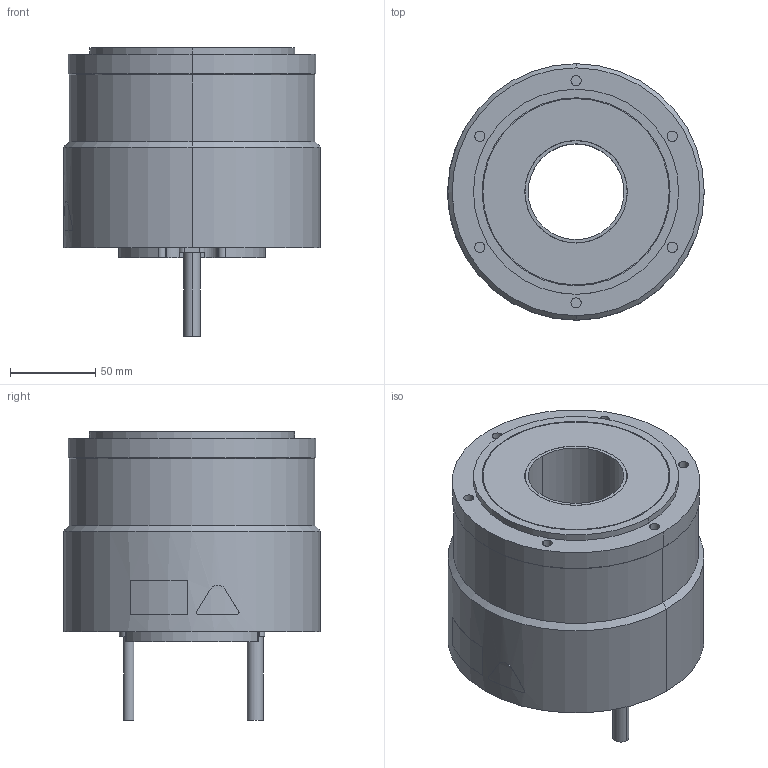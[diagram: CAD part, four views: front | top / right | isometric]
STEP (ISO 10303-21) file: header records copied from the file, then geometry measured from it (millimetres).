
FILE_DESCRIPTION (( 'STEP AP203' ), '1' );
FILE_NAME ('sgm7d_09j_c5_.STEP', '2016-02-23T01:33:54', ( '' ), ( '' ), 'SwSTEP 2.0', 'SolidWorks 2010', '' );
FILE_SCHEMA (( 'CONFIG_CONTROL_DESIGN' ));
Length unit declared in the file: millimetre
Products named in the file (1): sgm7d_09j_c5_
Bounding box: 150.06 x 150 x 169 mm (x, y, z)
Volume: 1651708.7 mm3; surface area: 116799.4 mm2
Topology: 1 solids, 1 shells, 170 faces, 397 edges, 262 vertices
Faces by surface type: cylinder 105, plane 56, bspline 5, cone 4
Entity records: 5276 total; most frequent: CARTESIAN_POINT 1131, DIRECTION 925, ORIENTED_EDGE 794, EDGE_CURVE 397, AXIS2_PLACEMENT_3D 378, VERTEX_POINT 262, CIRCLE 212, EDGE_LOOP 205
